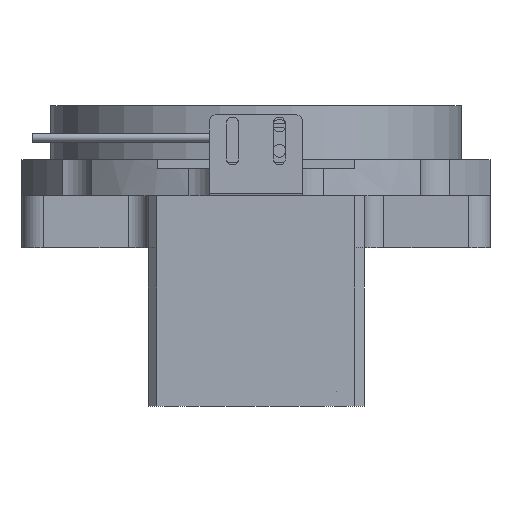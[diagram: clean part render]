
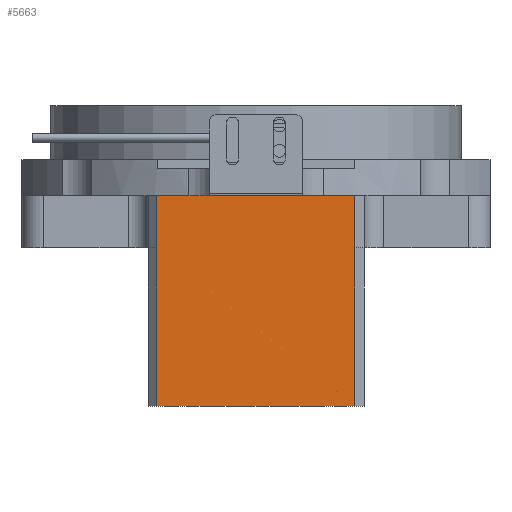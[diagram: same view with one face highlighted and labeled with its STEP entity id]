
A CAD part, front view. The second image highlights one B-rep face of the part: STEP entity #5663.
In plain terms, the highlighted planar face has unit normal (0, -1, 0).
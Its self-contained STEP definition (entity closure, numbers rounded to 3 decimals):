
#28 = VERTEX_POINT ( 'NONE', #7746 ) ;
#125 = CARTESIAN_POINT ( 'NONE',  ( 38.913, -91.82, 2.25 ) ) ;
#302 = ORIENTED_EDGE ( 'NONE', *, *, #5037, .F. ) ;
#491 = LINE ( 'NONE', #5716, #1336 ) ;
#516 = VERTEX_POINT ( 'NONE', #7167 ) ;
#611 = CARTESIAN_POINT ( 'NONE',  ( -16.087, -91.82, 41.75 ) ) ;
#817 = EDGE_CURVE ( 'NONE', #8184, #516, #491, .T. ) ;
#959 = ORIENTED_EDGE ( 'NONE', *, *, #2438, .T. ) ;
#984 = LINE ( 'NONE', #7396, #3281 ) ;
#1162 = VERTEX_POINT ( 'NONE', #1569 ) ;
#1233 = LINE ( 'NONE', #5727, #1826 ) ;
#1234 = AXIS2_PLACEMENT_3D ( 'NONE', #2924, #6809, #2878 ) ;
#1297 = LINE ( 'NONE', #611, #4374 ) ;
#1336 = VECTOR ( 'NONE', #2464, 1000. ) ;
#1569 = CARTESIAN_POINT ( 'NONE',  ( -16.087, -91.82, 16.75 ) ) ;
#1571 = CARTESIAN_POINT ( 'NONE',  ( -16.087, -91.82, 41.75 ) ) ;
#1639 = FACE_OUTER_BOUND ( 'NONE', #5746, .T. ) ;
#1826 = VECTOR ( 'NONE', #2555, 1000. ) ;
#1891 = DIRECTION ( 'NONE',  ( 1., 0., 0. ) ) ;
#2438 = EDGE_CURVE ( 'NONE', #2473, #8184, #984, .T. ) ;
#2464 = DIRECTION ( 'NONE',  ( 0., 0., 1. ) ) ;
#2473 = VERTEX_POINT ( 'NONE', #3543 ) ;
#2555 = DIRECTION ( 'NONE',  ( -1., 0., 0. ) ) ;
#2636 = PLANE ( 'NONE',  #1234 ) ;
#2832 = EDGE_CURVE ( 'NONE', #4301, #28, #1297, .T. ) ;
#2878 = DIRECTION ( 'NONE',  ( 1., 0., 0. ) ) ;
#2924 = CARTESIAN_POINT ( 'NONE',  ( 11.413, -91.82, 41.75 ) ) ;
#3135 = LINE ( 'NONE', #3812, #4286 ) ;
#3281 = VECTOR ( 'NONE', #7534, 1000. ) ;
#3326 = DIRECTION ( 'NONE',  ( 0., 0., -1. ) ) ;
#3425 = ORIENTED_EDGE ( 'NONE', *, *, #2832, .T. ) ;
#3543 = CARTESIAN_POINT ( 'NONE',  ( 38.913, -91.82, -41.75 ) ) ;
#3812 = CARTESIAN_POINT ( 'NONE',  ( 11.413, -91.82, 16.75 ) ) ;
#4286 = VECTOR ( 'NONE', #1891, 1000. ) ;
#4301 = VERTEX_POINT ( 'NONE', #6173 ) ;
#4374 = VECTOR ( 'NONE', #5115, 1000. ) ;
#4471 = EDGE_CURVE ( 'NONE', #1162, #516, #3135, .T. ) ;
#5037 = EDGE_CURVE ( 'NONE', #2473, #28, #1233, .T. ) ;
#5115 = DIRECTION ( 'NONE',  ( 0., 0., -1. ) ) ;
#5300 = ORIENTED_EDGE ( 'NONE', *, *, #817, .T. ) ;
#5663 = ADVANCED_FACE ( 'NONE', ( #1639 ), #2636, .F. ) ;
#5716 = CARTESIAN_POINT ( 'NONE',  ( 38.913, -91.82, 16.75 ) ) ;
#5727 = CARTESIAN_POINT ( 'NONE',  ( 41.413, -91.82, -41.75 ) ) ;
#5746 = EDGE_LOOP ( 'NONE', ( #302, #959, #5300, #8418, #5871, #3425 ) ) ;
#5871 = ORIENTED_EDGE ( 'NONE', *, *, #6481, .T. ) ;
#6173 = CARTESIAN_POINT ( 'NONE',  ( -16.087, -91.82, 2.25 ) ) ;
#6481 = EDGE_CURVE ( 'NONE', #1162, #4301, #7433, .T. ) ;
#6809 = DIRECTION ( 'NONE',  ( 0., 1., 0. ) ) ;
#7167 = CARTESIAN_POINT ( 'NONE',  ( 38.913, -91.82, 16.75 ) ) ;
#7396 = CARTESIAN_POINT ( 'NONE',  ( 38.913, -91.82, 2.25 ) ) ;
#7433 = LINE ( 'NONE', #1571, #8475 ) ;
#7534 = DIRECTION ( 'NONE',  ( 0., 0., 1. ) ) ;
#7746 = CARTESIAN_POINT ( 'NONE',  ( -16.087, -91.82, -41.75 ) ) ;
#8184 = VERTEX_POINT ( 'NONE', #125 ) ;
#8418 = ORIENTED_EDGE ( 'NONE', *, *, #4471, .F. ) ;
#8475 = VECTOR ( 'NONE', #3326, 1000. ) ;
